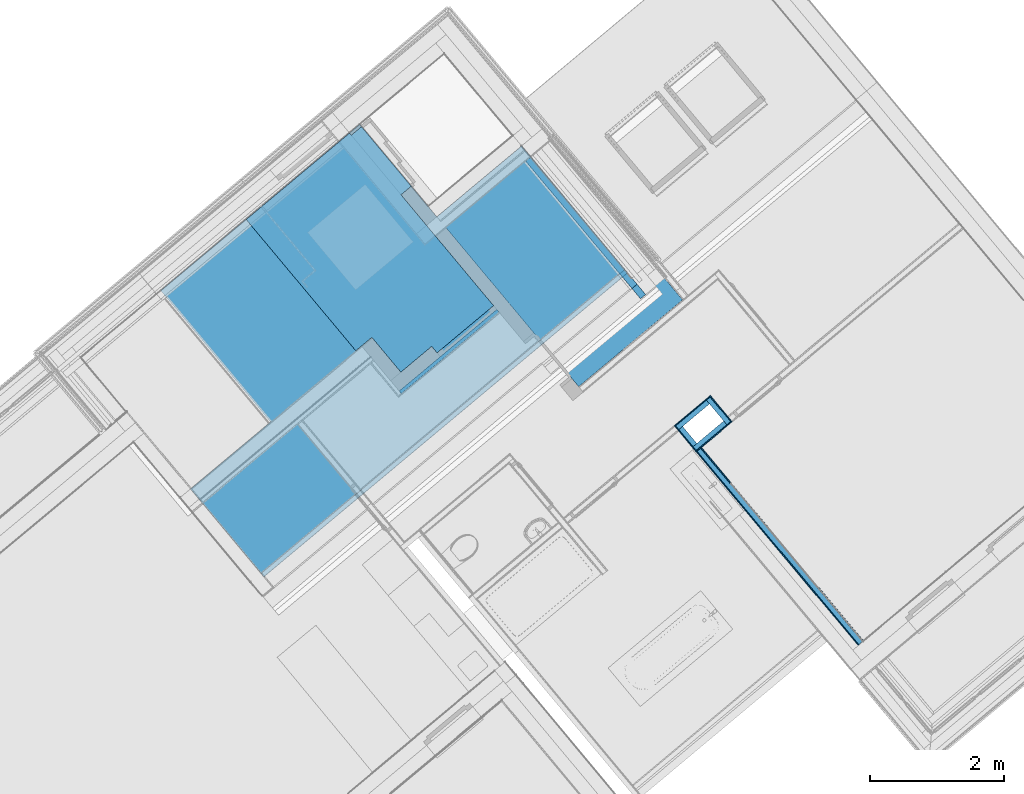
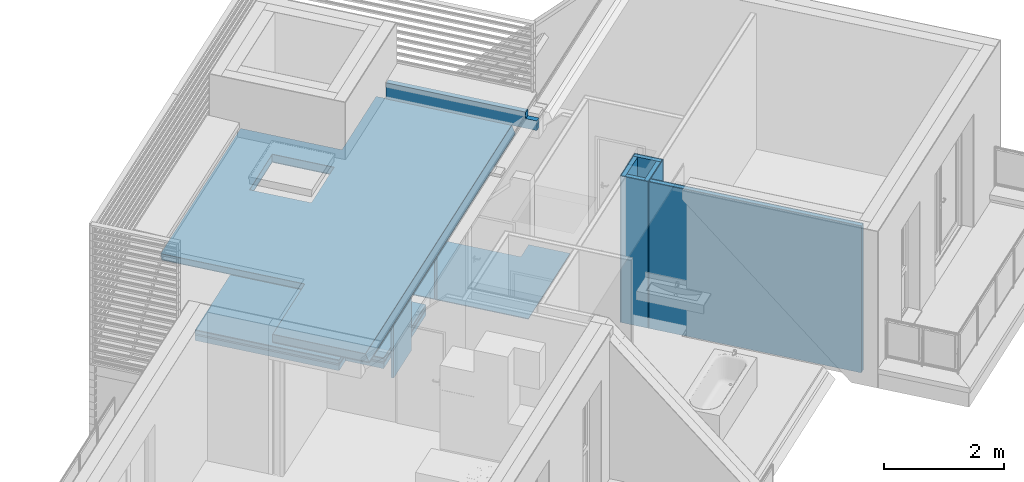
# One storey, part 27 of 50: 21 building element parts, 2 openings, 10 elements without a shape of their own.
"""IFC4 building model written with IfcOpenShell, lengths in metres."""

from ifc_helpers import new_model, entity, si_unit, converted_unit, derived_unit, direction, frame, origin_with_axes, place, context, subcontext, project, spatial, polygons, material, type_object, element, aggregate, save


model = new_model("IFC4")

# Units and contexts
model_context = context("Model", 3, precision=1e-05, world=origin_with_axes(), true_north=direction((0.0, 1.0)))
body_context = subcontext(model_context, "Body", "Model", "MODEL_VIEW")
ifc_project = project(units=[si_unit("LENGTHUNIT", "METRE"), si_unit("AREAUNIT", "SQUARE_METRE"), si_unit("VOLUMEUNIT", "CUBIC_METRE"), converted_unit("PLANEANGLEUNIT", "DEGREE", entity("IfcPlaneAngleMeasure", 0.0174532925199), si_unit("PLANEANGLEUNIT", "RADIAN"), dimensions=[0, 0, 0, 0, 0, 0, 0]), converted_unit("TIMEUNIT", "Year", entity("IfcTimeMeasure", 31556926.0), si_unit("TIMEUNIT", "SECOND"), dimensions=[0, 0, 1, 0, 0, 0, 0]), si_unit("MASSUNIT", "GRAM", prefix="KILO"), si_unit("THERMODYNAMICTEMPERATUREUNIT", "DEGREE_CELSIUS"), si_unit("LUMINOUSINTENSITYUNIT", "LUMEN"), si_unit("ENERGYUNIT", "JOULE", prefix="MEGA"), derived_unit("THERMALCONDUCTANCEUNIT", [(si_unit("POWERUNIT", "WATT"), 1), (si_unit("LENGTHUNIT", "METRE"), -1), (si_unit("THERMODYNAMICTEMPERATUREUNIT", "KELVIN"), -1)]), derived_unit("SPECIFICHEATCAPACITYUNIT", [(si_unit("ENERGYUNIT", "JOULE"), 1), (si_unit("MASSUNIT", "GRAM", prefix="KILO"), -1), (si_unit("THERMODYNAMICTEMPERATUREUNIT", "KELVIN"), -1)]), derived_unit("MASSDENSITYUNIT", [(si_unit("MASSUNIT", "GRAM", prefix="KILO"), 1), (si_unit("VOLUMEUNIT", "CUBIC_METRE"), -1)])], contexts=[model_context])

# Site, building, storey
site_placement = place(None, frame((-0.00153261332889, -0.00661245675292, 0.0), z_axis=(0.0, 0.0, 1.0), x_axis=(1.0, 0.0, 0.0)))
site = spatial("IfcSite", under=ifc_project, at=site_placement, Name="Gelände", CompositionType="ELEMENT")
building_placement = place(site_placement, origin_with_axes())
building = spatial("IfcBuilding", under=site, at=building_placement, Name="Gebäude", CompositionType="ELEMENT")
storey_placement = place(building_placement, frame((0.0, 0.0, 8.66), z_axis=(0.0, 0.0, 1.0), x_axis=(1.0, 0.0, 0.0)))
storey = spatial("IfcBuildingStorey", under=building, at=storey_placement, Name="DG2", CompositionType="ELEMENT", Elevation=8.66)

# Wall, building element parts
wall_type_1 = type_object("IfcWallType", Name="LB 9,0 cm einfache Vorsatzschale  90", PredefinedType="NOTDEFINED")
wall_1_placement = place(storey_placement, frame((5.09288115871, 21.4423412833, 0.0), z_axis=(0.0, 0.0, 1.0), x_axis=(0.767365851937, 0.641209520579, 0.0)))
wall_1 = element("IfcWall", 1, at=wall_1_placement, inside=storey, type_object=wall_type_1, Name="Wand-006", PredefinedType="NOTDEFINED")
ifc_material_1 = material(Name="Gipskarton")
building_element_part_1_placement = place(wall_1_placement, origin_with_axes())
building_element_part_1 = element("IfcBuildingElementPart", 2, at=building_element_part_1_placement, material=ifc_material_1, Name="Gipskarton", PredefinedType="NOTDEFINED", context=body_context, shape_type="Tessellation", body=[
    polygons([(0.70434608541, 0.0899970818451, 0.0), (0.70434608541, 0.075, 0.0), (0.704316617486, 0.075, 0.0), (0.70434608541, 0.0899970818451, 2.98), (0.70434608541, 0.075, 2.98), (0.704316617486, 0.075, 2.98)], [[[1, 2, 3]], [[4, 5, 2, 1]], [[2, 5, 6, 3]], [[1, 3, 6, 4]], [[5, 4, 6]]], closed=True),
    polygons([(0.689316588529, 0.075, 0.0), (0.0, 0.075, 0.0), (0.0, 0.09, 0.0), (0.689346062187, 0.09, 0.0), (0.689316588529, 0.075, 2.98), (0.0, 0.075, 2.98), (0.0, 0.09, 2.98), (0.689346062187, 0.09, 2.98)], [[[1, 2, 3, 4]], [[5, 6, 2, 1]], [[3, 2, 6, 7]], [[4, 3, 7, 8]], [[4, 8, 5, 1]], [[8, 7, 6, 5]]], closed=True),
])
ifc_material_2 = material(Name="Mineralwolle weich")
building_element_part_2_placement = place(wall_1_placement, origin_with_axes())
building_element_part_2 = element("IfcBuildingElementPart", 3, at=building_element_part_2_placement, material=ifc_material_2, Name="Mineralwolle weich", PredefinedType="NOTDEFINED", context=body_context, shape_type="Tessellation", body=[
    polygons([(0.70416926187, 0.0, 0.22), (0.70434608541, 0.0, 0.22), (0.70434608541, 0.0, 2.98), (0.704169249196, 0.0, 2.98), (0.70434608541, 0.075, 0.22), (0.704316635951, 0.0749999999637, 0.22), (0.70434608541, 0.075, 2.98), (0.704316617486, 0.075, 2.98)], [[[1, 2, 3, 4]], [[5, 2, 1, 6]], [[2, 5, 7, 3]], [[4, 3, 7, 8]], [[6, 1, 4, 8]], [[5, 6, 8, 7]]], closed=True),
    polygons([(0.614316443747, 0.075, 0.0), (0.614169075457, 0.0, 0.0), (0.015, 0.0, 0.0), (0.015, 0.075, 0.0), (0.614316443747, 0.075, 2.98), (0.614169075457, 0.0, 2.98), (0.015, 0.0, 2.98), (0.015, 0.075, 2.98)], [[[1, 2, 3, 4]], [[2, 1, 5, 6]], [[2, 6, 7, 3]], [[8, 4, 3, 7]], [[5, 1, 4, 8]], [[6, 5, 8, 7]]], closed=True),
])
aggregate(wall_1, [building_element_part_1, building_element_part_2])

wall_2_placement = place(storey_placement, frame((5.50650780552, 21.9054398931, 0.0), z_axis=(0.0, 0.0, 1.0), x_axis=(0.639700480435, -0.768624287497, 0.0)))
wall_2 = element("IfcWall", 4, at=wall_2_placement, inside=storey, type_object=wall_type_1, Name="Wand-006", PredefinedType="NOTDEFINED")
building_element_part_3_placement = place(wall_2_placement, origin_with_axes())
building_element_part_3 = element("IfcBuildingElementPart", 5, at=building_element_part_3_placement, material=ifc_material_1, Name="Gipskarton", PredefinedType="NOTDEFINED", context=body_context, shape_type="Tessellation", body=[
    polygons([(0.512699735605, 0.075, 0.0), (0.0, 0.075, 0.0), (0.0, 0.09, 0.0), (0.512670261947, 0.09, 0.0), (0.512699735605, 0.075, 2.98), (0.0, 0.075, 2.98), (0.0, 0.09, 2.98), (0.512670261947, 0.09, 2.98)], [[[1, 2, 3, 4]], [[5, 6, 2, 1]], [[3, 2, 6, 7]], [[4, 3, 7, 8]], [[4, 8, 5, 1]], [[8, 7, 6, 5]]], closed=True),
])
building_element_part_4_placement = place(wall_2_placement, origin_with_axes())
building_element_part_4 = element("IfcBuildingElementPart", 6, at=building_element_part_4_placement, material=ifc_material_2, Name="Mineralwolle weich", PredefinedType="NOTDEFINED", context=body_context, shape_type="Tessellation", body=[
    polygons([(0.000145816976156, 1.78492953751e-09, 0.22), (0.0, 0.0736499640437, 0.22), (0.0, 0.0736499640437, 2.98), (0.000144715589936, 0.0, 2.98), (0.0, 0.0, 0.22), (0.0, 0.0, 2.98)], [[[1, 2, 3, 4]], [[5, 2, 1]], [[2, 5, 6, 3]], [[4, 3, 6]], [[5, 1, 4, 6]]], closed=True),
    polygons([(0.497699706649, 0.075, 0.0), (0.497847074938, 0.0, 0.0), (0.0151447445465, 0.0, 0.0), (0.0149973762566, 0.075, 0.0), (0.497699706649, 0.075, 2.98), (0.497847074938, 0.0, 2.98), (0.0151447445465, 0.0, 2.98), (0.0149973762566, 0.075, 2.98)], [[[1, 2, 3, 4]], [[2, 1, 5, 6]], [[2, 6, 7, 3]], [[8, 4, 3, 7]], [[5, 1, 4, 8]], [[6, 5, 8, 7]]], closed=True),
])
aggregate(wall_2, [building_element_part_3, building_element_part_4])

# Wall, opening, building element part
wall_type_2 = type_object("IfcWallType", Name="LB 6,5 cm einfach Vorsatzschale 65", PredefinedType="NOTDEFINED")
wall_3_placement = place(storey_placement, frame((0.919799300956, 21.9370650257, 0.0), z_axis=(0.0, 0.0, 1.0), x_axis=(0.767670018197, 0.640845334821, 0.0)))
wall_3 = element("IfcWall", 7, at=wall_3_placement, inside=storey, type_object=wall_type_2, Name="Wand-005", PredefinedType="NOTDEFINED")
opening_1_placement = place(wall_3_placement, frame((1.4403324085, 0.0, 0.22), z_axis=(0.0, 0.0, 1.0), x_axis=(1.0, 0.0, 0.0)))
element("IfcOpeningElement", 8, at=opening_1_placement, cuts=wall_3, Name="Tür-001", context=body_context, identifier="Reference", shape_type="Tessellation", body=[
    polygons([(0.525, 1.13125205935, 2.05), (0.525, 1.13125205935, -0.22), (-0.525, 1.13125205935, -0.22), (-0.525, 1.13125205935, 2.05), (0.525, -1.06625205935, 2.05), (0.525, -1.06625205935, -0.22), (-0.525, -1.06625205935, -0.22), (-0.525, -1.06625205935, 2.05)], [[[1, 2, 3, 4]], [[5, 6, 2, 1]], [[6, 7, 3, 2]], [[7, 8, 4, 3]], [[8, 5, 1, 4]], [[7, 6, 5, 8]]], closed=True),
])
building_element_part_5_placement = place(wall_3_placement, origin_with_axes())
building_element_part_5 = element("IfcBuildingElementPart", 9, at=building_element_part_5_placement, material=ifc_material_2, Name="Mineralwolle weich", PredefinedType="NOTDEFINED", context=body_context, shape_type="Tessellation", body=[
    polygons([(0.915332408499, 0.015, 0.0), (0.915332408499, 0.015, 2.27), (1.96528074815, 0.015, 2.27), (1.96528074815, 0.015, 2.49), (0.0649928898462, 0.015, 2.49), (0.0649928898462, 0.015, 0.0), (0.915332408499, 0.065, 0.0), (0.915332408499, 0.065, 2.27), (1.9652792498, 0.065, 2.27), (1.9652792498, 0.065, 2.49), (0.0649691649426, 0.065, 2.49), (0.0649691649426, 0.065, 0.0)], [[[1, 2, 3, 4, 5, 6]], [[2, 1, 7, 8]], [[9, 3, 2, 8]], [[3, 9, 10, 4]], [[10, 11, 5, 4]], [[5, 11, 12, 6]], [[7, 1, 6, 12]], [[8, 7, 12, 11, 10, 9]]], closed=True),
    polygons([(2.16528095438, 0.0150000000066, 0.22), (2.16533240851, 0.015, 0.22), (2.16533240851, 0.015, 2.49), (2.16528078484, 0.0150000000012, 2.49), (2.16533240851, 0.065, 0.22), (2.16527936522, 0.0650000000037, 0.22), (2.16533240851, 0.065, 2.49), (2.16527927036, 0.0650000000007, 2.49)], [[[1, 2, 3, 4]], [[5, 2, 1, 6]], [[2, 5, 7, 3]], [[3, 7, 8, 4]], [[6, 1, 4, 8]], [[5, 6, 8, 7]]], closed=True),
])
aggregate(wall_3, [building_element_part_5])

# Space
space_1_placement = place(storey_placement, frame((2.62853065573, 25.842931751, 0.00145373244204), z_axis=(0.0, 0.0, 1.0), x_axis=(-0.641209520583, 0.767365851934, 0.0)))
space_1 = spatial("IfcSpace", under=storey, at=space_1_placement, CompositionType="ELEMENT", PredefinedType="NOTDEFINED")

# Roof, opening, building element parts
roof_type = type_object("IfcRoofType", Name="Flachdach Kies Dachaufbau Treppenbereich 290", PredefinedType="NOTDEFINED")
roof_placement = place(space_1_placement, frame((-2.5051010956, 5.0552078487, 2.68854626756), z_axis=(0.0, 0.0, 1.0), x_axis=(-0.00025521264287, -0.999999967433, 0.0)))
roof = element("IfcRoof", 10, at=roof_placement, inside=space_1, type_object=roof_type, Name="Dach-002", PredefinedType="NOTDEFINED")
opening_2_placement = place(roof_placement, frame((1.78288822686, 2.80364761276, -0.2), z_axis=(0.0, 0.0, 1.0), x_axis=(1.0, 0.0, 0.0)))
element("IfcOpeningElement", 11, at=opening_2_placement, cuts=roof, Name="DFenst-002", context=body_context, identifier="Reference", shape_type="Tessellation", body=[
    polygons([(0.000113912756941, -0.549086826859, 0.49), (1.09996655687, -0.548858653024, 0.49), (1.09996655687, -0.548858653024, 0.491), (0.000113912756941, -0.549086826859, 0.491), (0.000113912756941, -0.549086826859, 0.199), (1.09996655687, -0.548858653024, 0.199), (1.09973873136, 0.549315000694, 0.49), (1.09973873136, 0.549315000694, 0.491), (-0.000113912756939, 0.549086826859, 0.491), (-0.000113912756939, 0.549086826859, 0.49), (-0.000113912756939, 0.549086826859, 0.199), (1.09973873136, 0.549315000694, 0.199)], [[[1, 2, 3, 4]], [[2, 1, 5, 6]], [[2, 7, 8, 3]], [[8, 9, 4, 3]], [[10, 1, 4, 9]], [[1, 10, 11, 5]], [[6, 5, 11, 12]], [[7, 2, 6, 12]], [[7, 10, 9, 8]], [[10, 7, 12, 11]]], closed=True),
])
ifc_material_3 = material(Name="Folie")
building_element_part_6_placement = place(roof_placement, origin_with_axes())
building_element_part_6 = element("IfcBuildingElementPart", 12, at=building_element_part_6_placement, material=ifc_material_3, Name="Folie", PredefinedType="NOTDEFINED", context=body_context, shape_type="Tessellation", body=[
    polygons([(5.05662381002, -0.0982346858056, 0.17), (5.05662464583, -0.100305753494, 0.165), (5.05565338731, 2.30641503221, 0.165), (5.0556533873, 2.30641503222, 0.17), (-2.02565254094, -0.101710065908, 0.165), (-2.02565312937, -0.0996389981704, 0.17), (-2.02612050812, 1.5453550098, 0.165), (-0.467015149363, 1.54557542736, 0.165), (-0.467668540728, 4.10575788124, 0.165), (3.40545349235, 4.10711215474, 0.165), (3.40505867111, 2.30677699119, 0.165), (2.88285478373, 2.25478895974, 0.165), (2.88262695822, 3.35296261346, 0.165), (1.7827743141, 3.35273443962, 0.165), (1.78300213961, 2.2545607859, 0.165), (3.40505867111, 2.30677699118, 0.17), (3.40545349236, 4.10711215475, 0.17), (-0.469245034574, 4.10575733, 0.17), (-0.46859164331, 1.54557520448, 0.17), (-2.02612050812, 1.5453550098, 0.17), (2.88285478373, 2.25478895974, 0.17), (1.78300213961, 2.2545607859, 0.17), (1.7827743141, 3.35273443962, 0.17), (2.88262695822, 3.35296261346, 0.17)], [[[1, 2, 3, 4]], [[5, 2, 1, 6]], [[2, 5, 7, 8, 9, 10, 11, 3], [12, 13, 14, 15]], [[16, 4, 3, 11]], [[6, 1, 4, 16, 17, 18, 19, 20], [21, 22, 23, 24]], [[5, 6, 20, 7]], [[20, 19, 8, 7]], [[19, 18, 9, 8]], [[18, 17, 10, 9]], [[17, 16, 11, 10]], [[13, 12, 21, 24]], [[14, 13, 24, 23]], [[15, 14, 23, 22]], [[12, 15, 22, 21]]], closed=True),
])
ifc_material_4 = material(Name="XPS")
building_element_part_7_placement = place(roof_placement, origin_with_axes())
building_element_part_7 = element("IfcBuildingElementPart", 13, at=building_element_part_7_placement, material=ifc_material_4, Name="XPS", PredefinedType="NOTDEFINED", context=body_context, shape_type="Tessellation", body=[
    polygons([(5.05664972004, -0.162437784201, 0.015), (5.05565338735, 2.30641503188, 0.015), (5.05565338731, 2.30641503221, 0.165), (5.05662464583, -0.100305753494, 0.165), (-2.02563488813, -0.163842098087, 0.015), (-2.0261205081, 1.54535500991, 0.015), (-0.419720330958, 1.54558211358, 0.015), (-0.420373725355, 4.10577441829, 0.015), (3.40545349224, 4.10711215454, 0.015), (3.40505867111, 2.30677699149, 0.015), (2.88285478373, 2.25478895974, 0.015), (2.88262695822, 3.35296261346, 0.015), (1.7827743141, 3.35273443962, 0.015), (1.78300213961, 2.2545607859, 0.015), (3.40505867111, 2.30677699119, 0.165), (-2.02565254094, -0.101710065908, 0.165), (3.40545349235, 4.10711215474, 0.165), (-0.467668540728, 4.10575788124, 0.165), (-0.467015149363, 1.54557542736, 0.165), (-2.02612050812, 1.5453550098, 0.165), (2.88285478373, 2.25478895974, 0.165), (1.78300213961, 2.2545607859, 0.165), (1.7827743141, 3.35273443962, 0.165), (2.88262695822, 3.35296261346, 0.165)], [[[1, 2, 3, 4]], [[1, 5, 6, 7, 8, 9, 10, 2], [11, 12, 13, 14]], [[15, 3, 2, 10]], [[16, 4, 3, 15, 17, 18, 19, 20], [21, 22, 23, 24]], [[5, 1, 4, 16]], [[5, 16, 20, 6]], [[20, 19, 7, 6]], [[19, 18, 8, 7]], [[18, 17, 9, 8]], [[17, 15, 10, 9]], [[12, 11, 21, 24]], [[13, 12, 24, 23]], [[14, 13, 23, 22]], [[11, 14, 22, 21]]], closed=True),
])
building_element_part_8_placement = place(roof_placement, origin_with_axes())
building_element_part_8 = element("IfcBuildingElementPart", 14, at=building_element_part_8_placement, material=ifc_material_3, Name="Folie", PredefinedType="NOTDEFINED", context=body_context, shape_type="Tessellation", body=[
    polygons([(5.05664972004, -0.162437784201, 0.015), (5.05665223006, -0.168665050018, -3.39504832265e-05), (5.05565338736, 2.30641503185, 0.0), (5.05565338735, 2.30641503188, 0.015), (-2.02563488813, -0.163842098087, 0.015), (-2.02563312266, -0.170055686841, -9.30777352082e-07), (5.03909187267, -0.168668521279, -3.39246458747e-05), (5.04308602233, -0.168667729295, -3.3924641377e-05), (-0.414990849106, 1.54558278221, 0.0), (1.78300213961, 2.2545607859, 0.0), (2.88285478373, 2.25478895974, 0.0), (3.40505867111, 2.30677699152, 0.0), (3.40505867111, 2.30677699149, 0.015), (3.40545349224, 4.10711215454, 0.015), (-0.420373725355, 4.10577441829, 0.015), (-0.419720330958, 1.54558211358, 0.015), (-2.0261205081, 1.54535500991, 0.015), (1.7827743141, 3.35273443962, 0.015), (2.88262695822, 3.35296261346, 0.015), (2.88285478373, 2.25478895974, 0.015), (1.78300213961, 2.2545607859, 0.015), (-2.0261205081, 1.54535500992, 0.0), (-0.415644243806, 4.105776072, 0.0), (3.40545349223, 4.10711215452, 0.0), (2.88262695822, 3.35296261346, 0.0), (1.7827743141, 3.35273443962, 0.0)], [[[1, 2, 3, 4]], [[2, 1, 5, 6, 7, 8]], [[2, 8, 9, 10, 11, 3]], [[3, 12, 13, 4]], [[5, 1, 4, 13, 14, 15, 16, 17], [18, 19, 20, 21]], [[6, 5, 17, 22]], [[7, 6, 22]], [[8, 7, 22, 9]], [[23, 24, 12, 3, 11, 25, 26, 10, 9]], [[21, 20, 11, 10]], [[12, 24, 14, 13]], [[24, 23, 15, 14]], [[23, 9, 16, 15]], [[9, 22, 17, 16]], [[19, 18, 26, 25]], [[20, 19, 25, 11]], [[18, 21, 10, 26]]], closed=True),
])
aggregate(roof, [building_element_part_6, building_element_part_7, building_element_part_8])

# Covering, building element parts
covering_type = type_object("IfcCoveringType", Name="DE 01 Decke Wohnung/Wohnung Fließen 220", PredefinedType="NOTDEFINED")
covering_1_placement = place(space_1_placement, frame((1.59614180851, 3.86164809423, 0.218546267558), z_axis=(0.0, 0.0, 1.0), x_axis=(-0.641209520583, -0.767365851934, 0.0)))
covering_1 = element("IfcCovering", 15, at=covering_1_placement, inside=space_1, type_object=covering_type, Name="Decke-004", PredefinedType="NOTDEFINED")
ifc_material_5 = material(Name="Fliesen")
building_element_part_9_placement = place(covering_1_placement, origin_with_axes())
building_element_part_9 = element("IfcBuildingElementPart", 16, at=building_element_part_9_placement, material=ifc_material_5, Name="Fliesen", PredefinedType="NOTDEFINED", context=body_context, shape_type="Tessellation", body=[
    polygons([(1.57096747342, 1.25920321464, -0.015), (1.57084861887, 1.25910399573, -0.015), (1.57084861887, 1.25910399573, 0.0), (1.57096747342, 1.25920321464, 0.0), (1.63852832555, -1.96090415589, -0.015), (0.766532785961, -0.917441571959, -0.015), (0.0, 0.0, -0.015), (1.54454118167, 1.29061581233, -0.015), (1.72438262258, 1.38727306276, -0.015), (1.72450147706, 1.38737228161, -0.015), (2.46788206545, 0.496875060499, -0.015), (2.46778989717, 0.496798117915, -0.015), (2.31434806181, 0.368705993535, -0.015), (2.31425973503, 0.36862444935, -0.015), (3.69688591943, -1.28752557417, -0.015), (2.85254822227, -1.992498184, -0.015), (2.77243411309, -1.89654646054, -0.015), (2.31152766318, -2.28137645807, -0.015), (1.87728250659, -1.76169470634, -0.015), (1.54454118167, 1.29061581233, 0.0), (0.0, 0.0, 0.0), (0.766532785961, -0.917441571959, 0.0), (1.63852832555, -1.96090415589, 0.0), (1.87728250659, -1.76169470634, 0.0), (2.31152766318, -2.28137645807, 0.0), (2.77243411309, -1.89654646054, 0.0), (2.85254822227, -1.992498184, 0.0), (3.69688591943, -1.28752557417, 0.0), (2.31425973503, 0.36862444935, 0.0), (2.31434806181, 0.368705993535, 0.0), (2.46778989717, 0.496798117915, 0.0), (2.46788206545, 0.496875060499, 0.0), (1.72450147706, 1.38737228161, 0.0), (1.72438262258, 1.38727306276, 0.0)], [[[1, 2, 3, 4]], [[5, 6, 7, 8, 2, 1, 9, 10, 11, 12, 13, 14, 15, 16, 17, 18, 19]], [[3, 2, 8, 20]], [[21, 22, 23, 24, 25, 26, 27, 28, 29, 30, 31, 32, 33, 34, 4, 3, 20]], [[1, 4, 34, 9]], [[6, 5, 23, 22]], [[6, 22, 21, 7]], [[7, 21, 20, 8]], [[9, 34, 33, 10]], [[10, 33, 32, 11]], [[31, 12, 11, 32]], [[30, 13, 12, 31]], [[14, 13, 30, 29]], [[15, 14, 29, 28]], [[27, 16, 15, 28]], [[26, 17, 16, 27]], [[25, 18, 17, 26]], [[19, 18, 25, 24]], [[23, 5, 19, 24]]], closed=True),
])
ifc_material_6 = material(Name="Estrich")
building_element_part_10_placement = place(covering_1_placement, origin_with_axes())
building_element_part_10 = element("IfcBuildingElementPart", 17, at=building_element_part_10_placement, material=ifc_material_6, Name="Estrich", PredefinedType="NOTDEFINED", context=body_context, shape_type="Tessellation", body=[
    polygons([(1.57096747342, 1.25920321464, -0.08), (1.57084861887, 1.25910399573, -0.08), (1.57084861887, 1.25910399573, -0.015), (1.57096747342, 1.25920321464, -0.015), (1.63852832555, -1.96090415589, -0.08), (0.766532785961, -0.917441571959, -0.08), (0.0, 0.0, -0.08), (1.54454118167, 1.29061581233, -0.08), (1.72438262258, 1.38727306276, -0.08), (1.72450147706, 1.38737228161, -0.08), (2.46788206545, 0.496875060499, -0.08), (2.46778989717, 0.496798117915, -0.08), (2.31434806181, 0.368705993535, -0.08), (2.31425973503, 0.36862444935, -0.08), (3.69688591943, -1.28752557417, -0.08), (2.85254822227, -1.992498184, -0.08), (2.77243411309, -1.89654646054, -0.08), (2.31152766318, -2.28137645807, -0.08), (1.87728250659, -1.76169470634, -0.08), (1.54454118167, 1.29061581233, -0.015), (0.766532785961, -0.917441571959, -0.015), (1.63852832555, -1.96090415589, -0.015), (1.87728250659, -1.76169470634, -0.015), (2.31152766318, -2.28137645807, -0.015), (2.77243411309, -1.89654646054, -0.015), (2.85254822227, -1.992498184, -0.015), (3.69688591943, -1.28752557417, -0.015), (2.31425973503, 0.36862444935, -0.015), (2.31434806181, 0.368705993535, -0.015), (2.46778989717, 0.496798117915, -0.015), (2.46788206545, 0.496875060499, -0.015), (1.72450147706, 1.38737228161, -0.015), (1.72438262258, 1.38727306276, -0.015), (0.0, 0.0, -0.015)], [[[1, 2, 3, 4]], [[5, 6, 7, 8, 2, 1, 9, 10, 11, 12, 13, 14, 15, 16, 17, 18, 19]], [[3, 2, 8, 20]], [[21, 22, 23, 24, 25, 26, 27, 28, 29, 30, 31, 32, 33, 4, 3, 20, 34]], [[1, 4, 33, 9]], [[21, 6, 5, 22]], [[34, 7, 6, 21]], [[7, 34, 20, 8]], [[9, 33, 32, 10]], [[10, 32, 31, 11]], [[30, 12, 11, 31]], [[29, 13, 12, 30]], [[14, 13, 29, 28]], [[15, 14, 28, 27]], [[26, 16, 15, 27]], [[25, 17, 16, 26]], [[24, 18, 17, 25]], [[19, 18, 24, 23]], [[22, 5, 19, 23]]], closed=True),
])
ifc_material_7 = material(Name="Trittschalldämmung")
building_element_part_11_placement = place(covering_1_placement, origin_with_axes())
building_element_part_11 = element("IfcBuildingElementPart", 18, at=building_element_part_11_placement, material=ifc_material_7, Name="Trittschalldämmung", PredefinedType="NOTDEFINED", context=body_context, shape_type="Tessellation", body=[
    polygons([(1.57096747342, 1.25920321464, -0.11), (1.57084861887, 1.25910399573, -0.11), (1.57084861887, 1.25910399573, -0.08), (1.57096747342, 1.25920321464, -0.08), (1.63852832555, -1.96090415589, -0.11), (0.766532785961, -0.917441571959, -0.11), (0.0, 0.0, -0.11), (1.54454118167, 1.29061581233, -0.11), (1.72438262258, 1.38727306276, -0.11), (1.72450147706, 1.38737228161, -0.11), (2.46788206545, 0.496875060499, -0.11), (2.46778989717, 0.496798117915, -0.11), (2.31434806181, 0.368705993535, -0.11), (2.31425973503, 0.36862444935, -0.11), (3.69688591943, -1.28752557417, -0.11), (2.85254822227, -1.992498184, -0.11), (2.77243411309, -1.89654646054, -0.11), (2.31152766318, -2.28137645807, -0.11), (1.87728250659, -1.76169470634, -0.11), (1.54454118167, 1.29061581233, -0.08), (0.766532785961, -0.917441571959, -0.08), (1.63852832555, -1.96090415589, -0.08), (1.87728250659, -1.76169470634, -0.08), (2.31152766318, -2.28137645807, -0.08), (2.77243411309, -1.89654646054, -0.08), (2.85254822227, -1.992498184, -0.08), (3.69688591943, -1.28752557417, -0.08), (2.31425973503, 0.36862444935, -0.08), (2.31434806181, 0.368705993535, -0.08), (2.46778989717, 0.496798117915, -0.08), (2.46788206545, 0.496875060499, -0.08), (1.72450147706, 1.38737228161, -0.08), (1.72438262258, 1.38727306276, -0.08), (0.0, 0.0, -0.08)], [[[1, 2, 3, 4]], [[5, 6, 7, 8, 2, 1, 9, 10, 11, 12, 13, 14, 15, 16, 17, 18, 19]], [[3, 2, 8, 20]], [[21, 22, 23, 24, 25, 26, 27, 28, 29, 30, 31, 32, 33, 4, 3, 20, 34]], [[1, 4, 33, 9]], [[21, 6, 5, 22]], [[34, 7, 6, 21]], [[7, 34, 20, 8]], [[9, 33, 32, 10]], [[10, 32, 31, 11]], [[30, 12, 11, 31]], [[29, 13, 12, 30]], [[14, 13, 29, 28]], [[15, 14, 28, 27]], [[26, 16, 15, 27]], [[25, 17, 16, 26]], [[24, 18, 17, 25]], [[19, 18, 24, 23]], [[22, 5, 19, 23]]], closed=True),
])
ifc_material_8 = material(Name="Schüttung")
building_element_part_12_placement = place(covering_1_placement, origin_with_axes())
building_element_part_12 = element("IfcBuildingElementPart", 19, at=building_element_part_12_placement, material=ifc_material_8, Name="Schüttung", PredefinedType="NOTDEFINED", context=body_context, shape_type="Tessellation", body=[
    polygons([(0.766532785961, -0.917441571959, -0.22), (1.63852832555, -1.96090415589, -0.22), (1.63852832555, -1.96090415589, -0.11), (0.766532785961, -0.917441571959, -0.11), (0.0, 0.0, -0.22), (1.54454118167, 1.29061581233, -0.22), (1.57084861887, 1.25910399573, -0.22), (1.57096747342, 1.25920321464, -0.22), (1.72438262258, 1.38727306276, -0.22), (1.72450147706, 1.38737228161, -0.22), (2.46788206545, 0.496875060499, -0.22), (2.46778989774, 0.496798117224, -0.22), (2.31434806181, 0.368705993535, -0.22), (2.31425973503, 0.36862444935, -0.22), (3.69688591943, -1.28752557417, -0.22), (2.85254822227, -1.992498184, -0.22), (2.77243411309, -1.89654646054, -0.22), (2.31152766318, -2.28137645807, -0.22), (1.87728250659, -1.76169470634, -0.22), (1.87728250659, -1.76169470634, -0.11), (2.31152766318, -2.28137645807, -0.11), (2.77243411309, -1.89654646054, -0.11), (2.85254822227, -1.992498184, -0.11), (3.69688591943, -1.28752557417, -0.11), (2.31425973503, 0.36862444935, -0.11), (2.31434806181, 0.368705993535, -0.11), (2.46778989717, 0.496798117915, -0.11), (2.46788206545, 0.496875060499, -0.11), (1.72450147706, 1.38737228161, -0.11), (1.72438262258, 1.38727306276, -0.11), (1.57096747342, 1.25920321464, -0.11), (1.57084861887, 1.25910399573, -0.11), (1.54454118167, 1.29061581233, -0.11), (0.0, 0.0, -0.11)], [[[1, 2, 3, 4]], [[1, 5, 6, 7, 8, 9, 10, 11, 12, 13, 14, 15, 16, 17, 18, 19, 2]], [[3, 2, 19, 20]], [[4, 3, 20, 21, 22, 23, 24, 25, 26, 27, 28, 29, 30, 31, 32, 33, 34]], [[5, 1, 4, 34]], [[6, 5, 34, 33]], [[32, 7, 6, 33]], [[8, 7, 32, 31]], [[8, 31, 30, 9]], [[9, 30, 29, 10]], [[11, 10, 29, 28]], [[11, 28, 27, 12]], [[13, 12, 27, 26]], [[14, 13, 26, 25]], [[15, 14, 25, 24]], [[23, 16, 15, 24]], [[17, 16, 23, 22]], [[21, 18, 17, 22]], [[19, 18, 21, 20]]], closed=True),
])
aggregate(covering_1, [building_element_part_9, building_element_part_10, building_element_part_11, building_element_part_12])

# Space
space_2_placement = place(storey_placement, frame((1.54811484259, 24.5632734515, 0.22), z_axis=(0.0, 0.0, 1.0), x_axis=(0.640845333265, -0.767670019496, 0.0)))
space_2 = spatial("IfcSpace", under=storey, at=space_2_placement, CompositionType="ELEMENT", PredefinedType="NOTDEFINED")

# Wall, building element part
wall_type_3 = type_object("IfcWallType", Name="Individuelles Profil 574 x 610", PredefinedType="NOTDEFINED")
wall_4_placement = place(space_2_placement, frame((0.124931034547, 1.8506033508, 2.47), z_axis=(0.0, 0.0, 1.0), x_axis=(0.999999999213, 3.96646163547e-05, 0.0)))
wall_4 = element("IfcWall", 20, at=wall_4_placement, inside=space_2, type_object=wall_type_3, Name="Wand-004", PredefinedType="NOTDEFINED")
ifc_material_9 = material(Name="EPS 1")
building_element_part_13_placement = place(wall_4_placement, origin_with_axes())
building_element_part_13 = element("IfcBuildingElementPart", 21, at=building_element_part_13_placement, material=ifc_material_9, Name="EPS 1", PredefinedType="NOTDEFINED", context=body_context, shape_type="Tessellation", body=[
    polygons([(2.47644342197, -0.300000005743, 0.488695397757), (2.47644342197, -0.300000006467, 0.43), (2.47639993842, -0.200000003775, 0.43), (2.47639993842, -0.200000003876, 0.488695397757), (2.47644342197, -0.300000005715, 0.491006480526), (2.47644342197, -0.300000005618, 0.498822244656), (2.47644342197, -0.300000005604, 0.499999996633), (2.47644342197, -0.300000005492, 0.509050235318), (2.47644342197, -0.300000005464, 0.51136132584), (2.47644342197, -0.300000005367, 0.519224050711), (2.47644342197, -0.300000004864, 0.55999999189), (0.0, -0.30000000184, 0.560000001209), (0.0, -0.30000000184, 0.235000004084), (2.67630300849, -0.300000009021, 0.234999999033), (2.67630300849, -0.300000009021, 0.430000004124), (2.67630300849, -0.200000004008, 0.430000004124), (0.0, -0.200000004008, 0.235000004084), (0.0, -0.200000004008, 0.560000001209), (2.47639993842, -0.200000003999, 0.55999999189), (2.47639993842, -0.200000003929, 0.519224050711), (2.47639993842, -0.200000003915, 0.51136132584), (2.47639993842, -0.200000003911, 0.509050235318), (2.47639993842, -0.200000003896, 0.499999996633), (2.47639993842, -0.200000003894, 0.498822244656), (2.47639993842, -0.20000000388, 0.491006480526), (2.67630300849, -0.200000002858, 0.234999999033)], [[[1, 2, 3, 4]], [[2, 1, 5, 6, 7, 8, 9, 10, 11, 12, 13, 14, 15]], [[3, 2, 15, 16]], [[17, 18, 19, 20, 21, 22, 23, 24, 25, 4, 3, 16, 26]], [[5, 1, 4, 25]], [[6, 5, 25, 24]], [[7, 6, 24, 23]], [[8, 7, 23, 22]], [[9, 8, 22, 21]], [[10, 9, 21, 20]], [[11, 10, 20, 19]], [[12, 11, 19, 18]], [[13, 12, 18, 17]], [[13, 17, 26, 14]], [[26, 16, 15, 14]]], closed=True),
])
aggregate(wall_4, [building_element_part_13])

# Space
space_3_placement = place(storey_placement, frame((2.09467668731, 18.9197573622, 0.22), z_axis=(0.0, 0.0, 1.0), x_axis=(0.640870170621, -0.76764928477, 0.0)))
space_3 = spatial("IfcSpace", under=storey, at=space_3_placement, CompositionType="ELEMENT", PredefinedType="NOTDEFINED")

# Wall, building element parts
wall_type_4 = type_object("IfcWallType", Name="IW LB 01 Leichtbautrennwand einfach 10,5 cm 105", PredefinedType="NOTDEFINED")
wall_5_placement = place(space_3_placement, frame((4.59524442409, 4.03006380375, -0.22), z_axis=(0.0, 0.0, 1.0), x_axis=(-0.999998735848, -0.00159006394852, 0.0)))
wall_5 = element("IfcWall", 22, at=wall_5_placement, inside=space_3, type_object=wall_type_4, Name="Wand-012", PredefinedType="NOTDEFINED")
building_element_part_14_placement = place(wall_5_placement, origin_with_axes())
building_element_part_14 = element("IfcBuildingElementPart", 23, at=building_element_part_14_placement, material=ifc_material_1, Name="Gipskarton", PredefinedType="NOTDEFINED", context=body_context, shape_type="Tessellation", body=[
    polygons([(4.1877152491, 0.105, 0.0), (4.1876980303, 0.09, 0.0), (0.420044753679, 0.09, 0.0), (0.420052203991, 0.105, 0.0), (4.1877152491, 0.105, 2.98), (4.1876980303, 0.09, 2.98), (0.420044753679, 0.09, 2.98), (0.420052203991, 0.105, 2.98)], [[[1, 2, 3, 4]], [[2, 1, 5, 6]], [[2, 6, 7, 3]], [[8, 4, 3, 7]], [[5, 1, 4, 8]], [[6, 5, 8, 7]]], closed=True),
])
building_element_part_15_placement = place(wall_5_placement, origin_with_axes())
building_element_part_15 = element("IfcBuildingElementPart", 24, at=building_element_part_15_placement, material=ifc_material_2, Name="Mineralwolle weich", PredefinedType="NOTDEFINED", context=body_context, shape_type="Tessellation", body=[
    polygons([(4.1876980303, 0.09, 0.0), (4.18761193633, 0.015, 0.0), (0.420007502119, 0.015, 0.0), (0.420044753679, 0.09, 0.0), (4.1876980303, 0.09, 2.98), (4.18761193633, 0.015, 2.98), (0.420007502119, 0.015, 2.98), (0.420044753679, 0.09, 2.98)], [[[1, 2, 3, 4]], [[2, 1, 5, 6]], [[2, 6, 7, 3]], [[8, 4, 3, 7]], [[5, 1, 4, 8]], [[6, 5, 8, 7]]], closed=True),
])
building_element_part_16_placement = place(wall_5_placement, origin_with_axes())
building_element_part_16 = element("IfcBuildingElementPart", 25, at=building_element_part_16_placement, material=ifc_material_1, Name="Gipskarton", PredefinedType="NOTDEFINED", context=body_context, shape_type="Tessellation", body=[
    polygons([(4.18761193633, 0.015, 0.0), (4.18759471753, 0.0, 0.0), (0.420000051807, 0.0, 0.0), (0.420007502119, 0.015, 0.0), (4.18761193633, 0.015, 2.98), (4.18759471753, 0.0, 2.98), (0.420000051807, 0.0, 2.98), (0.420007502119, 0.015, 2.98)], [[[1, 2, 3, 4]], [[2, 1, 5, 6]], [[2, 6, 7, 3]], [[8, 4, 3, 7]], [[5, 1, 4, 8]], [[6, 5, 8, 7]]], closed=True),
])
aggregate(wall_5, [building_element_part_14, building_element_part_15, building_element_part_16])

wall_6_placement = place(space_3_placement, frame((0.317430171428, 4.53188069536, -0.22), z_axis=(0.0, 0.0, 1.0), x_axis=(0.000442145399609, -0.999999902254, 0.0)))
wall_6 = element("IfcWall", 26, at=wall_6_placement, inside=space_3, type_object=wall_type_1, Name="Wand-006", PredefinedType="NOTDEFINED")
building_element_part_17_placement = place(wall_6_placement, origin_with_axes())
building_element_part_17 = element("IfcBuildingElementPart", 27, at=building_element_part_17_placement, material=ifc_material_1, Name="Gipskarton", PredefinedType="NOTDEFINED", context=body_context, shape_type="Tessellation", body=[
    polygons([(0.613515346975, 0.075, 0.0), (-0.0748527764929, 0.075, 0.0), (-0.0748233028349, 0.09, 0.0), (0.613515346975, 0.09, 0.0), (0.613515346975, 0.075, 2.98), (-0.0748527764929, 0.075, 2.98), (-0.0748233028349, 0.09, 2.98), (0.613515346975, 0.09, 2.98)], [[[1, 2, 3, 4]], [[5, 6, 2, 1]], [[3, 2, 6, 7]], [[4, 3, 7, 8]], [[4, 8, 5, 1]], [[8, 7, 6, 5]]], closed=True),
])
building_element_part_18_placement = place(wall_6_placement, origin_with_axes())
building_element_part_18 = element("IfcBuildingElementPart", 28, at=building_element_part_18_placement, material=ifc_material_2, Name="Mineralwolle weich", PredefinedType="NOTDEFINED", context=body_context, shape_type="Tessellation", body=[
    polygons([(0.598515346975, 0.075, 0.0), (0.598515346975, 0.0, 0.0), (0.0, 0.0, 0.0), (0.000147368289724, 0.075, 0.0), (0.598515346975, 0.075, 2.98), (0.598515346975, 0.0, 2.98), (0.0, 0.0, 2.98), (0.000147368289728, 0.075, 2.98)], [[[1, 2, 3, 4]], [[2, 1, 5, 6]], [[2, 6, 7, 3]], [[8, 4, 3, 7]], [[5, 1, 4, 8]], [[6, 5, 8, 7]]], closed=True),
])
aggregate(wall_6, [building_element_part_17, building_element_part_18])

wall_7_placement = place(space_3_placement, frame((0.317661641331, 4.00836539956, -0.22), z_axis=(0.0, 0.0, 1.0), x_axis=(-0.999999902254, -0.00044214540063, 0.0)))
wall_7 = element("IfcWall", 29, at=wall_7_placement, inside=space_3, type_object=wall_type_1, Name="Wand-007", PredefinedType="NOTDEFINED")
building_element_part_19_placement = place(wall_7_placement, origin_with_axes())
building_element_part_19 = element("IfcBuildingElementPart", 30, at=building_element_part_19_placement, material=ifc_material_1, Name="Gipskarton", PredefinedType="NOTDEFINED", context=body_context, shape_type="Tessellation", body=[
    polygons([(0.407701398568, 0.075, 0.0), (-0.0749999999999, 0.075, 0.0), (-0.0749999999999, 0.09, 0.0), (0.407701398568, 0.09, 0.0), (0.407701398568, 0.075, 2.98), (-0.0749999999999, 0.075, 2.98), (-0.0749999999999, 0.09, 2.98), (0.407701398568, 0.09, 2.98)], [[[1, 2, 3, 4]], [[5, 6, 2, 1]], [[3, 2, 6, 7]], [[4, 3, 7, 8]], [[4, 8, 5, 1]], [[8, 7, 6, 5]]], closed=True),
])
building_element_part_20_placement = place(wall_7_placement, origin_with_axes())
building_element_part_20 = element("IfcBuildingElementPart", 31, at=building_element_part_20_placement, material=ifc_material_2, Name="Mineralwolle weich", PredefinedType="NOTDEFINED", context=body_context, shape_type="Tessellation", body=[
    polygons([(0.332701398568, 0.075, 0.0), (0.332701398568, 0.0, 0.0), (0.0, 0.0, 0.0), (0.0, 0.075, 0.0), (0.332701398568, 0.075, 2.98), (0.332701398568, 0.0, 2.98), (0.0, 0.0, 2.98), (0.0, 0.075, 2.98)], [[[1, 2, 3, 4]], [[2, 1, 5, 6]], [[2, 6, 7, 3]], [[8, 4, 3, 7]], [[5, 1, 4, 8]], [[6, 5, 8, 7]]], closed=True),
])
aggregate(wall_7, [building_element_part_19, building_element_part_20])

# Covering, building element part
covering_2_placement = place(storey_placement, frame((3.60991174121, 22.0934424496, 0.22), z_axis=(0.0, 0.0, 1.0), x_axis=(1.0, 0.0, 0.0)))
covering_2 = element("IfcCovering", 32, at=covering_2_placement, inside=storey, type_object=covering_type, Name="Decke-004", PredefinedType="NOTDEFINED")
building_element_part_21_placement = place(covering_2_placement, origin_with_axes())
building_element_part_21 = element("IfcBuildingElementPart", 33, at=building_element_part_21_placement, material=ifc_material_5, Name="Fliesen", PredefinedType="NOTDEFINED", context=body_context, shape_type="Tessellation", body=[
    polygons([(1.08078187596, 1.86196508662, -0.015), (1.08078187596, 1.86196508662, 0.0), (1.55327238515, 1.29666046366, 0.0), (1.55327238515, 1.29666046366, -0.015), (0.791211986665, 1.62021476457, -0.015), (0.791211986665, 1.62021476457, 0.0), (-0.798520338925, 3.52440504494, 0.0), (-2.06187332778, 2.46976717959, 0.0), (-1.03746435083, 1.24278079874, 0.0), (-1.02789098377, 1.23123293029, 0.0), (0.0, 0.0, 0.0), (0.0, 0.0, -0.015), (-1.02785167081, 1.23126574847, -0.015), (-1.03750400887, 1.2427476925, -0.015), (-2.06187332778, 2.46976717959, -0.015), (-0.798520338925, 3.52440504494, -0.015)], [[[1, 2, 3, 4]], [[2, 1, 5, 6]], [[2, 6, 7, 8, 9, 10, 11, 3]], [[3, 11, 12, 4]], [[1, 4, 12, 13, 14, 15, 16, 5]], [[16, 7, 6, 5]], [[8, 7, 16, 15]], [[8, 15, 9]], [[9, 14, 10]], [[11, 10, 12]], [[13, 12, 10]], [[13, 10, 14]], [[14, 9, 15]]], closed=True),
])
aggregate(covering_2, [building_element_part_21])

save(model, "model.ifc")
